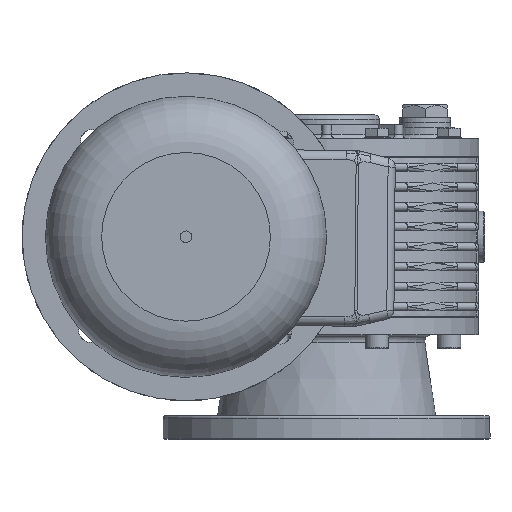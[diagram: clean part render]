
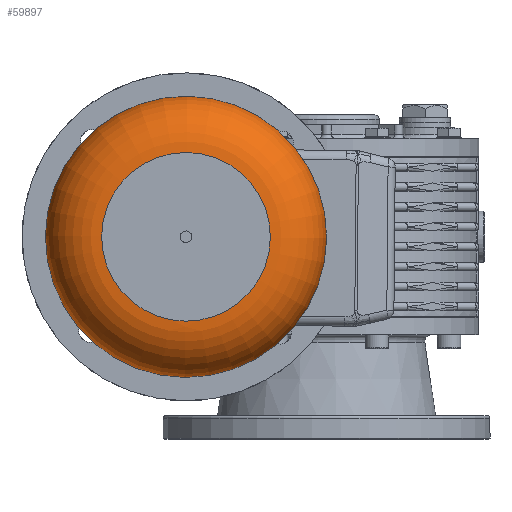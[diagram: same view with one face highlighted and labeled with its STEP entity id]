
A CAD part, left-side view. The second image highlights one B-rep face of the part: STEP entity #59897.
In plain terms, the highlighted toroidal (fillet/blend) face has major radius 36 mm and minor radius 24 mm.
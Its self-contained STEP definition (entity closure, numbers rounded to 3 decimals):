
#59870=CARTESIAN_POINT('',(236.0,0.0,0.0));
#59871=DIRECTION('',(1.0,0.0,0.0));
#59872=DIRECTION('',(0.0,0.0,-1.0));
#59873=AXIS2_PLACEMENT_3D('',#59870,#59871,#59872);
#59874=TOROIDAL_SURFACE('',#59873,36.,24.0);
#59875=CARTESIAN_POINT('',(260.,36.,0.0));
#59876=VERTEX_POINT('',#59875);
#59877=CARTESIAN_POINT('',(260.,0.0,0.0));
#59878=DIRECTION('',(1.0,0.0,0.0));
#59879=DIRECTION('',(0.0,1.0,0.0));
#59880=AXIS2_PLACEMENT_3D('',#59877,#59878,#59879);
#59881=CIRCLE('',#59880,36.);
#59882=EDGE_CURVE('',#59876,#59876,#59881,.T.);
#59883=ORIENTED_EDGE('',*,*,#59882,.F.);
#59884=EDGE_LOOP('',(#59883));
#59885=FACE_OUTER_BOUND('',#59884,.T.);
#59886=CARTESIAN_POINT('',(236.0,60.0,0.0));
#59887=VERTEX_POINT('',#59886);
#59888=CARTESIAN_POINT('',(236.0,0.0,0.0));
#59889=DIRECTION('',(1.0,0.0,0.0));
#59890=DIRECTION('',(0.0,1.0,0.0));
#59891=AXIS2_PLACEMENT_3D('',#59888,#59889,#59890);
#59892=CIRCLE('',#59891,60.0);
#59893=EDGE_CURVE('',#59887,#59887,#59892,.T.);
#59894=ORIENTED_EDGE('',*,*,#59893,.T.);
#59895=EDGE_LOOP('',(#59894));
#59896=FACE_BOUND('',#59895,.T.);
#59897=ADVANCED_FACE('',(#59885,#59896),#59874,.T.);
